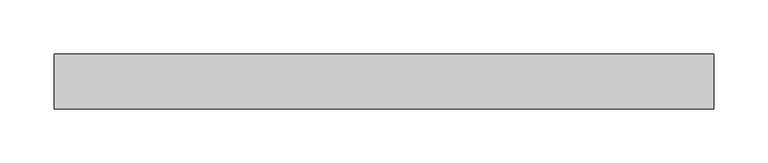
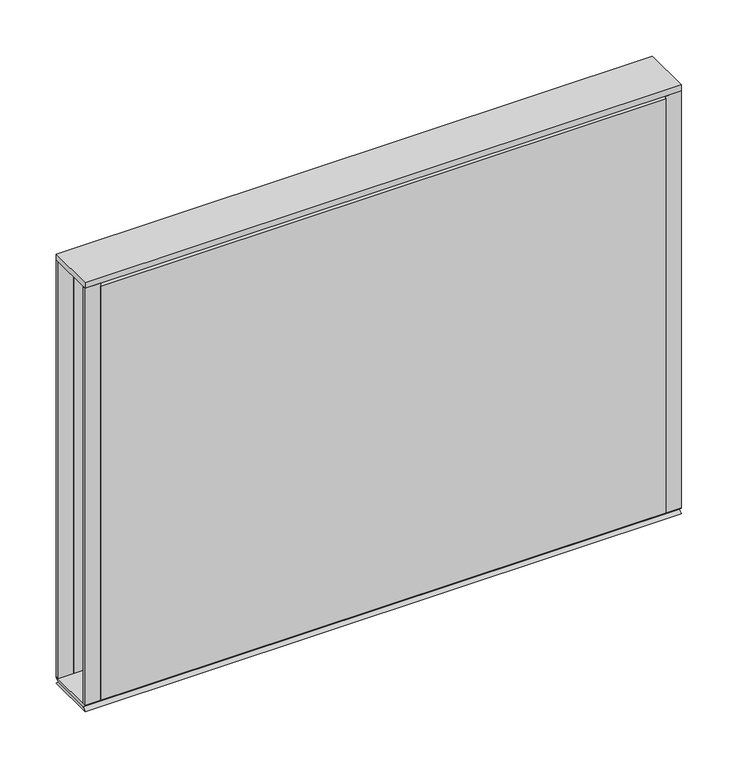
"""IFC4 building model written with IfcOpenShell, lengths in millimetres: furniture geometry, Steelcase - Kick Solutions - Panel - Stacker - Tackable Acoustical : 18H x 24W."""

from ifc_helpers import new_model, si_unit, frame, origin, place, context, project, spatial, polyline, outline, extrude, source, transform, mapped, element, save


def furniture_19cf1caf(model_context):
    return source(origin(), model_context, "Body", "SweptSolid", [
        extrude(outline(polyline([(-50.7995075, 1073.2669139), (-0.000494, 1073.2669139), (-3.1752531, 1070.0921549), (-47.6247484, 1070.0921549), (-50.7995075, 1073.2669139)])), frame((0.0, 0.0, 0.0), z_axis=(1.0, 0.0, 0.0), x_axis=(0.0, 1.0, 0.0)), (0.0, 0.0, 1.0), 609.6),
        extrude(outline(polyline([(0.0, 1073.2669139), (-3.1750015, 1073.2669139), (-3.1750015, 1524.1169018), (0.0, 1521.0357466), (0.0, 1073.2669139)])), frame((15.8749996, 0.0, 0.0), z_axis=(1.0, 0.0, 0.0), x_axis=(0.0, 1.0, 0.0)), (0.0, 0.0, 1.0), 577.8500008),
        extrude(outline(polyline([(-50.8000015, 1073.2669139), (-50.8000015, 1521.0357466), (-47.625, 1524.1169018), (-47.625, 1073.2669139), (-50.8000015, 1073.2669139)])), frame((15.8749996, 0.0, 0.0), z_axis=(1.0, 0.0, 0.0), x_axis=(0.0, 1.0, 0.0)), (0.0, 0.0, 1.0), 577.8500008),
        extrude(outline(polyline([(609.6, -3.1750015), (593.7250004, -3.1750015), (593.7250004, 0.0), (609.6, 0.0), (609.6, -3.1750015)])), frame((0.0, 0.0, 1073.2669139), z_axis=(0.0, 0.0, 1.0), x_axis=(1.0, 0.0, 0.0)), (0.0, 0.0, 1.0), 450.8499879),
        extrude(outline(polyline([(15.8749996, -50.8000015), (0.0, -50.8000015), (0.0, -47.625), (15.8749996, -47.625), (15.8749996, -50.8000015)])), frame((0.0, 0.0, 1073.2669139), z_axis=(0.0, 0.0, 1.0), x_axis=(1.0, 0.0, 0.0)), (0.0, 0.0, 1.0), 450.8499879),
        extrude(outline(polyline([(609.6, 0.0), (609.6, -50.8000015), (0.0, -50.8000015), (0.0, 0.0), (609.6, 0.0)])), frame((0.0, 0.0, 1524.1169018), z_axis=(0.0, 0.0, 1.0), x_axis=(1.0, 0.0, 0.0)), (0.0, 0.0, 1.0), 6.35),
        extrude(outline(polyline([(15.8749996, -3.1750015), (0.0, -3.1750015), (0.0, 0.0), (15.8749996, 0.0), (15.8749996, -3.1750015)])), frame((0.0, 0.0, 1073.2669139), z_axis=(0.0, 0.0, 1.0), x_axis=(1.0, 0.0, 0.0)), (0.0, 0.0, 1.0), 450.8499879),
        extrude(outline(polyline([(609.6, -50.8000015), (593.7250004, -50.8000015), (593.7250004, -47.625), (609.6, -47.625), (609.6, -50.8000015)])), frame((0.0, 0.0, 1073.2669139), z_axis=(0.0, 0.0, 1.0), x_axis=(1.0, 0.0, 0.0)), (0.0, 0.0, 1.0), 450.8499879),
        extrude(outline(polyline([(-50.8000015, 1066.9169018), (-47.6247484, 1070.0921549), (-3.1752531, 1070.0921549), (0.0, 1066.9169018), (-50.8000015, 1066.9169018)])), frame((0.0, 0.0, 0.0), z_axis=(1.0, 0.0, 0.0), x_axis=(0.0, 1.0, 0.0)), (0.0, 0.0, 1.0), 609.6),
    ])


if __name__ == "__main__":
    model = new_model("IFC4")
    model_context = context("Model", 3, world=origin())
    ifc_project = project(units=[si_unit("LENGTHUNIT", "METRE", prefix="MILLI")], contexts=[model_context])
    site = spatial("IfcSite", under=ifc_project)
    building = spatial("IfcBuilding", under=site)
    placement = place(None, origin())
    furniture_shape = furniture_19cf1caf(model_context)
    element("IfcFurniture", 1, ObjectType="Steelcase - Kick Solutions - Panel - Stacker - Tackable Acoustical : 18H x 24W", at=placement, inside=building, context=model_context, shape_type="MappedRepresentation", body=[
        mapped(furniture_shape, transform((0.0, 0.0, 0.0), x_axis=(1.0, 0.0, 0.0), y_axis=(0.0, 1.0, 0.0), z_axis=(0.0, 0.0, 1.0))),
    ])
    save(model, "model.ifc")
